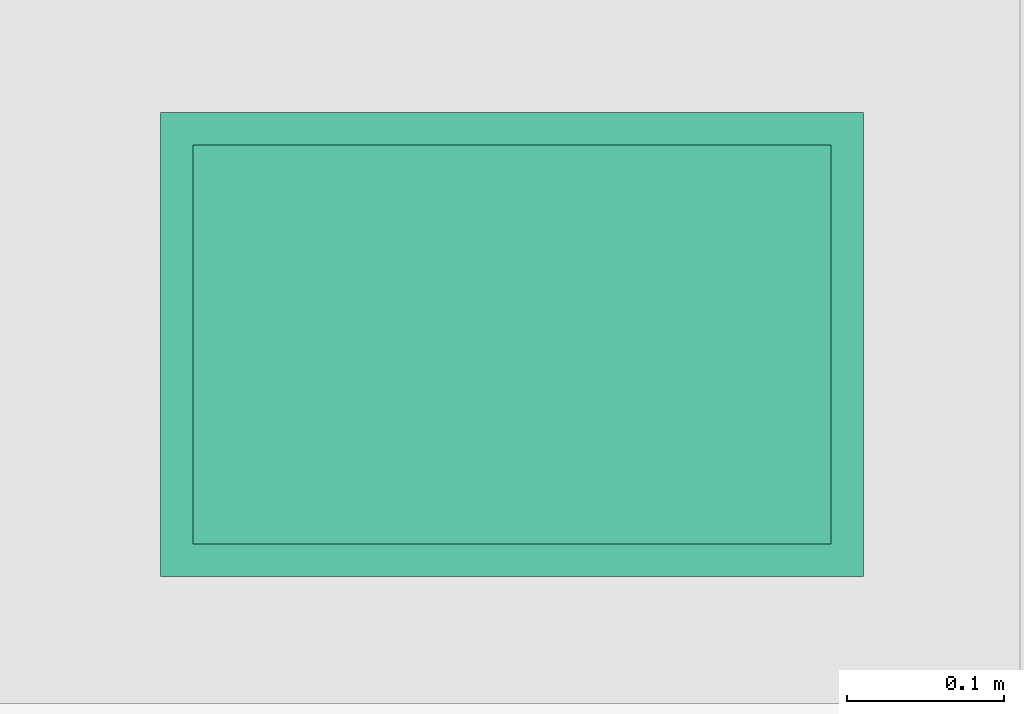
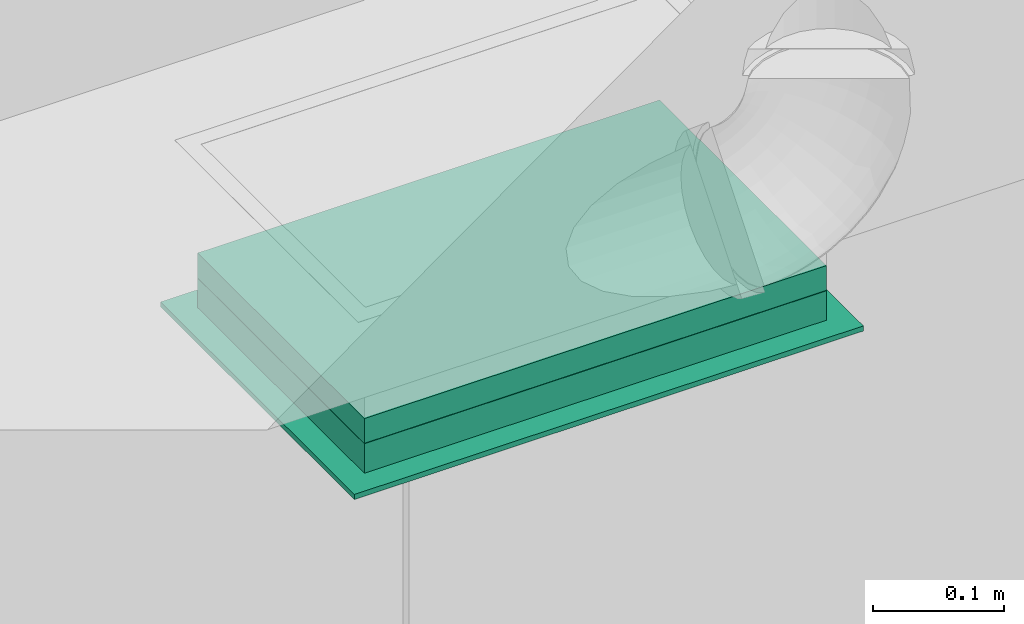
# One storey, part 70 of 108: 1 air terminal, 1 duct segment.
"""IFC4 building model written with IfcOpenShell, lengths in feet."""

from ifc_helpers import new_model, entity, si_unit, converted_unit, derived_unit, direction, frame, frame_2d, origin, place, context, subcontext, project, spatial, rectangle, extrude, source, transform, mapped, type_object, type_shapes, element, save


model = new_model("IFC4")

# Units and contexts
model_context = context("Model", 3, precision=0.0001, world=origin(), true_north=direction((6.12303176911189e-17, 1.0)))
body_context = subcontext(model_context, "Body", "Model", "MODEL_VIEW")
ifc_project = project(units=[converted_unit("LENGTHUNIT", "FOOT", entity("IfcRatioMeasure", 0.3048), si_unit("LENGTHUNIT", "METRE"), dimensions=[1, 0, 0, 0, 0, 0, 0]), converted_unit("AREAUNIT", "SQUARE FOOT", entity("IfcRatioMeasure", 0.09290304), si_unit("AREAUNIT", "SQUARE_METRE"), dimensions=[2, 0, 0, 0, 0, 0, 0]), converted_unit("VOLUMEUNIT", "CUBIC FOOT", entity("IfcRatioMeasure", 0.028316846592), si_unit("VOLUMEUNIT", "CUBIC_METRE"), dimensions=[3, 0, 0, 0, 0, 0, 0]), converted_unit("PLANEANGLEUNIT", "DEGREE", entity("IfcRatioMeasure", 0.0174532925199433), si_unit("PLANEANGLEUNIT", "RADIAN"), dimensions=[0, 0, 0, 0, 0, 0, 0]), si_unit("MASSUNIT", "GRAM", prefix="KILO"), derived_unit("MASSDENSITYUNIT", [(si_unit("MASSUNIT", "GRAM", prefix="KILO"), 1), (si_unit("LENGTHUNIT", "METRE"), -3)]), si_unit("TIMEUNIT", "SECOND"), si_unit("FREQUENCYUNIT", "HERTZ"), si_unit("THERMODYNAMICTEMPERATUREUNIT", "DEGREE_CELSIUS"), derived_unit("THERMALTRANSMITTANCEUNIT", [(si_unit("MASSUNIT", "GRAM", prefix="KILO"), 1), (si_unit("THERMODYNAMICTEMPERATUREUNIT", "KELVIN"), -1), (si_unit("TIMEUNIT", "SECOND"), -3)]), derived_unit("VOLUMETRICFLOWRATEUNIT", [(si_unit("LENGTHUNIT", "METRE"), 3), (si_unit("TIMEUNIT", "SECOND"), -1)]), si_unit("ELECTRICCURRENTUNIT", "AMPERE"), si_unit("ELECTRICVOLTAGEUNIT", "VOLT"), si_unit("POWERUNIT", "WATT"), si_unit("FORCEUNIT", "NEWTON"), si_unit("ILLUMINANCEUNIT", "LUX"), si_unit("LUMINOUSFLUXUNIT", "LUMEN"), si_unit("LUMINOUSINTENSITYUNIT", "CANDELA"), derived_unit("USERDEFINED", [(si_unit("MASSUNIT", "GRAM", prefix="KILO"), -1), (si_unit("LENGTHUNIT", "METRE"), -2), (si_unit("TIMEUNIT", "SECOND"), 3), (si_unit("LUMINOUSFLUXUNIT", "LUMEN"), 1)]), derived_unit("LINEARVELOCITYUNIT", [(si_unit("LENGTHUNIT", "METRE"), 1), (si_unit("TIMEUNIT", "SECOND"), -1)]), si_unit("PRESSUREUNIT", "PASCAL"), derived_unit("USERDEFINED", [(si_unit("LENGTHUNIT", "METRE"), -2), (si_unit("MASSUNIT", "GRAM", prefix="KILO"), 1), (si_unit("TIMEUNIT", "SECOND"), -2)])], contexts=[model_context])

# Site, building, storey
site_placement = place(None, origin())
site = spatial("IfcSite", under=ifc_project, at=site_placement, Name="Default", CompositionType="ELEMENT")
building_placement = place(site_placement, origin())
building = spatial("IfcBuilding", under=site, at=building_placement, CompositionType="ELEMENT")
storey_placement = place(building_placement, frame((0.0, 0.0, 168.0)))
storey = spatial("IfcBuildingStorey", under=building, at=storey_placement, Name="Level 15", CompositionType="ELEMENT", Elevation=168.0)

# Duct segment
duct_segment_type = type_object("IfcDuctSegmentType", Name="Rectangular Duct:Square Throat Elbows / S&D", PredefinedType="NOTDEFINED")
duct_segment_placement = place(storey_placement, frame((-29.3410733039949, 12.7762257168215, 8.67447916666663)))
element("IfcDuctSegment", 1, at=duct_segment_placement, inside=storey, type_object=duct_segment_type, Name="Rectangular Duct:Square Throat Elbows / S&D", ObjectType="Rectangular Duct:Square Throat Elbows / S&D", PredefinedType="NOTDEFINED", context=body_context, shape_type="SweptSolid", body=[
    extrude(rectangle(XDim=1.33333333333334, YDim=0.833333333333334, at=frame_2d((0.0, -8.88178419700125e-16), x_axis=(1.0, 0.0))), frame((0.666666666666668, 0.416666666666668, 0.0)), (0.0, 0.0, 1.0), 0.0755208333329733),
])

# Air terminal
air_terminal_type = type_object("IfcAirTerminalType", Name="16x10", PredefinedType="NOTDEFINED")
cartesian_point_1 = entity("IfcCartesianPoint", [0.734375, -0.015625, 0.484374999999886])
vertex_point_1 = entity("IfcVertexPoint", cartesian_point_1)
cartesian_point_2 = entity("IfcCartesianPoint", [-0.734375, -0.015625, 0.484374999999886])
vertex_point_2 = entity("IfcVertexPoint", cartesian_point_2)
ifc_direction_1 = entity("IfcDirection", [-1.0, 0.0, 0.0])
edge_curve_1 = entity("IfcEdgeCurve", vertex_point_1, vertex_point_2, entity("IfcTrimmedCurve", entity("IfcLine", cartesian_point_1, entity("IfcVector", ifc_direction_1, 1.0)), [cartesian_point_1], [cartesian_point_2], True, "CARTESIAN"), True)
cartesian_point_3 = entity("IfcCartesianPoint", [-0.734375, -0.015625, -0.484374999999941])
vertex_point_3 = entity("IfcVertexPoint", cartesian_point_3)
ifc_direction_2 = entity("IfcDirection", [0.0, 0.0, -1.0])
edge_curve_2 = entity("IfcEdgeCurve", vertex_point_2, vertex_point_3, entity("IfcTrimmedCurve", entity("IfcLine", cartesian_point_2, entity("IfcVector", ifc_direction_2, 1.0)), [cartesian_point_2], [cartesian_point_3], True, "CARTESIAN"), True)
cartesian_point_4 = entity("IfcCartesianPoint", [0.734375, -0.015625, -0.484374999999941])
vertex_point_4 = entity("IfcVertexPoint", cartesian_point_4)
ifc_direction_3 = entity("IfcDirection", [1.0, 0.0, 0.0])
edge_curve_3 = entity("IfcEdgeCurve", vertex_point_3, vertex_point_4, entity("IfcTrimmedCurve", entity("IfcLine", cartesian_point_3, entity("IfcVector", ifc_direction_3, 1.0)), [cartesian_point_3], [cartesian_point_4], True, "CARTESIAN"), True)
ifc_direction_4 = entity("IfcDirection", [0.0, 0.0, 1.0])
edge_curve_4 = entity("IfcEdgeCurve", vertex_point_4, vertex_point_1, entity("IfcTrimmedCurve", entity("IfcLine", cartesian_point_4, entity("IfcVector", ifc_direction_4, 1.0)), [cartesian_point_4], [cartesian_point_1], True, "CARTESIAN"), True)
ifc_direction_5 = entity("IfcDirection", [0.0, -1.0, 0.0])
cartesian_point_5 = entity("IfcCartesianPoint", [0.734375, 0.0, 0.484374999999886])
vertex_point_5 = entity("IfcVertexPoint", cartesian_point_5)
cartesian_point_6 = entity("IfcCartesianPoint", [0.734375, 0.0, -0.484374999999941])
vertex_point_6 = entity("IfcVertexPoint", cartesian_point_6)
edge_curve_5 = entity("IfcEdgeCurve", vertex_point_5, vertex_point_6, entity("IfcTrimmedCurve", entity("IfcLine", cartesian_point_5, entity("IfcVector", ifc_direction_2, 1.0)), [cartesian_point_5], [cartesian_point_6], True, "CARTESIAN"), True)
cartesian_point_7 = entity("IfcCartesianPoint", [-0.734375, 0.0, -0.484374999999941])
vertex_point_7 = entity("IfcVertexPoint", cartesian_point_7)
edge_curve_6 = entity("IfcEdgeCurve", vertex_point_6, vertex_point_7, entity("IfcTrimmedCurve", entity("IfcLine", cartesian_point_6, entity("IfcVector", ifc_direction_1, 1.0)), [cartesian_point_6], [cartesian_point_7], True, "CARTESIAN"), True)
cartesian_point_8 = entity("IfcCartesianPoint", [-0.734375, 0.0, 0.484374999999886])
vertex_point_8 = entity("IfcVertexPoint", cartesian_point_8)
edge_curve_7 = entity("IfcEdgeCurve", vertex_point_7, vertex_point_8, entity("IfcTrimmedCurve", entity("IfcLine", cartesian_point_7, entity("IfcVector", ifc_direction_4, 1.0)), [cartesian_point_7], [cartesian_point_8], True, "CARTESIAN"), True)
edge_curve_8 = entity("IfcEdgeCurve", vertex_point_8, vertex_point_5, entity("IfcTrimmedCurve", entity("IfcLine", cartesian_point_8, entity("IfcVector", ifc_direction_3, 1.0)), [cartesian_point_8], [cartesian_point_5], True, "CARTESIAN"), True)
cartesian_point_9 = entity("IfcCartesianPoint", [-0.666666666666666, 0.0, 0.416666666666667])
vertex_point_9 = entity("IfcVertexPoint", cartesian_point_9)
cartesian_point_10 = entity("IfcCartesianPoint", [-0.666666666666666, 0.0, -0.416666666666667])
vertex_point_10 = entity("IfcVertexPoint", cartesian_point_10)
edge_curve_9 = entity("IfcEdgeCurve", vertex_point_9, vertex_point_10, entity("IfcTrimmedCurve", entity("IfcLine", cartesian_point_9, entity("IfcVector", ifc_direction_2, 1.0)), [cartesian_point_9], [cartesian_point_10], True, "CARTESIAN"), True)
cartesian_point_11 = entity("IfcCartesianPoint", [0.666666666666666, 0.0, -0.416666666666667])
vertex_point_11 = entity("IfcVertexPoint", cartesian_point_11)
edge_curve_10 = entity("IfcEdgeCurve", vertex_point_10, vertex_point_11, entity("IfcTrimmedCurve", entity("IfcLine", cartesian_point_10, entity("IfcVector", ifc_direction_3, 1.0)), [cartesian_point_10], [cartesian_point_11], True, "CARTESIAN"), True)
cartesian_point_12 = entity("IfcCartesianPoint", [0.666666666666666, 0.0, 0.416666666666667])
vertex_point_12 = entity("IfcVertexPoint", cartesian_point_12)
edge_curve_11 = entity("IfcEdgeCurve", vertex_point_11, vertex_point_12, entity("IfcTrimmedCurve", entity("IfcLine", cartesian_point_11, entity("IfcVector", ifc_direction_4, 1.0)), [cartesian_point_11], [cartesian_point_12], True, "CARTESIAN"), True)
edge_curve_12 = entity("IfcEdgeCurve", vertex_point_12, vertex_point_9, entity("IfcTrimmedCurve", entity("IfcLine", cartesian_point_12, entity("IfcVector", ifc_direction_1, 1.0)), [cartesian_point_12], [cartesian_point_9], True, "CARTESIAN"), True)
ifc_direction_6 = entity("IfcDirection", [0.0, 1.0, 0.0])
edge_curve_13 = entity("IfcEdgeCurve", vertex_point_1, vertex_point_5, entity("IfcTrimmedCurve", entity("IfcLine", cartesian_point_1, entity("IfcVector", ifc_direction_6, 1.0)), [cartesian_point_1], [cartesian_point_5], True, "CARTESIAN"), True)
edge_curve_14 = entity("IfcEdgeCurve", vertex_point_8, vertex_point_2, entity("IfcTrimmedCurve", entity("IfcLine", cartesian_point_2, entity("IfcVector", ifc_direction_5, 1.0)), [cartesian_point_8], [cartesian_point_2], True, "CARTESIAN"), True)
edge_curve_15 = entity("IfcEdgeCurve", vertex_point_7, vertex_point_3, entity("IfcTrimmedCurve", entity("IfcLine", cartesian_point_3, entity("IfcVector", ifc_direction_5, 1.0)), [cartesian_point_7], [cartesian_point_3], True, "CARTESIAN"), True)
edge_curve_16 = entity("IfcEdgeCurve", vertex_point_6, vertex_point_4, entity("IfcTrimmedCurve", entity("IfcLine", cartesian_point_4, entity("IfcVector", ifc_direction_5, 1.0)), [cartesian_point_6], [cartesian_point_4], True, "CARTESIAN"), True)
cartesian_point_13 = entity("IfcCartesianPoint", [-0.666666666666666, 0.08984375, 0.416666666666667])
vertex_point_13 = entity("IfcVertexPoint", cartesian_point_13)
cartesian_point_14 = entity("IfcCartesianPoint", [0.666666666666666, 0.08984375, 0.416666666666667])
vertex_point_14 = entity("IfcVertexPoint", cartesian_point_14)
edge_curve_17 = entity("IfcEdgeCurve", vertex_point_13, vertex_point_14, entity("IfcTrimmedCurve", entity("IfcLine", cartesian_point_13, entity("IfcVector", ifc_direction_3, 1.0)), [cartesian_point_13], [cartesian_point_14], True, "CARTESIAN"), True)
cartesian_point_15 = entity("IfcCartesianPoint", [0.666666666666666, 0.08984375, -0.416666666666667])
vertex_point_15 = entity("IfcVertexPoint", cartesian_point_15)
edge_curve_18 = entity("IfcEdgeCurve", vertex_point_14, vertex_point_15, entity("IfcTrimmedCurve", entity("IfcLine", cartesian_point_14, entity("IfcVector", ifc_direction_2, 1.0)), [cartesian_point_14], [cartesian_point_15], True, "CARTESIAN"), True)
cartesian_point_16 = entity("IfcCartesianPoint", [-0.666666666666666, 0.08984375, -0.416666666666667])
vertex_point_16 = entity("IfcVertexPoint", cartesian_point_16)
edge_curve_19 = entity("IfcEdgeCurve", vertex_point_15, vertex_point_16, entity("IfcTrimmedCurve", entity("IfcLine", cartesian_point_15, entity("IfcVector", ifc_direction_1, 1.0)), [cartesian_point_15], [cartesian_point_16], True, "CARTESIAN"), True)
edge_curve_20 = entity("IfcEdgeCurve", vertex_point_16, vertex_point_13, entity("IfcTrimmedCurve", entity("IfcLine", cartesian_point_16, entity("IfcVector", ifc_direction_4, 1.0)), [cartesian_point_16], [cartesian_point_13], True, "CARTESIAN"), True)
cartesian_point_17 = entity("IfcCartesianPoint", [-0.645833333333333, 0.08984375, 0.395833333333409])
vertex_point_17 = entity("IfcVertexPoint", cartesian_point_17)
cartesian_point_18 = entity("IfcCartesianPoint", [-0.645833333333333, 0.08984375, -0.39583333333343])
vertex_point_18 = entity("IfcVertexPoint", cartesian_point_18)
edge_curve_21 = entity("IfcEdgeCurve", vertex_point_17, vertex_point_18, entity("IfcTrimmedCurve", entity("IfcLine", cartesian_point_17, entity("IfcVector", ifc_direction_2, 1.0)), [cartesian_point_17], [cartesian_point_18], True, "CARTESIAN"), True)
cartesian_point_19 = entity("IfcCartesianPoint", [0.645833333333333, 0.08984375, -0.39583333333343])
vertex_point_19 = entity("IfcVertexPoint", cartesian_point_19)
edge_curve_22 = entity("IfcEdgeCurve", vertex_point_18, vertex_point_19, entity("IfcTrimmedCurve", entity("IfcLine", cartesian_point_18, entity("IfcVector", ifc_direction_3, 1.0)), [cartesian_point_18], [cartesian_point_19], True, "CARTESIAN"), True)
cartesian_point_20 = entity("IfcCartesianPoint", [0.645833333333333, 0.08984375, 0.395833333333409])
vertex_point_20 = entity("IfcVertexPoint", cartesian_point_20)
edge_curve_23 = entity("IfcEdgeCurve", vertex_point_19, vertex_point_20, entity("IfcTrimmedCurve", entity("IfcLine", cartesian_point_19, entity("IfcVector", ifc_direction_4, 1.0)), [cartesian_point_19], [cartesian_point_20], True, "CARTESIAN"), True)
edge_curve_24 = entity("IfcEdgeCurve", vertex_point_20, vertex_point_17, entity("IfcTrimmedCurve", entity("IfcLine", cartesian_point_20, entity("IfcVector", ifc_direction_1, 1.0)), [cartesian_point_20], [cartesian_point_17], True, "CARTESIAN"), True)
edge_curve_25 = entity("IfcEdgeCurve", vertex_point_16, vertex_point_10, entity("IfcTrimmedCurve", entity("IfcLine", cartesian_point_10, entity("IfcVector", ifc_direction_5, 1.0)), [cartesian_point_16], [cartesian_point_10], True, "CARTESIAN"), True)
edge_curve_26 = entity("IfcEdgeCurve", vertex_point_9, vertex_point_13, entity("IfcTrimmedCurve", entity("IfcLine", cartesian_point_9, entity("IfcVector", ifc_direction_6, 1.0)), [cartesian_point_9], [cartesian_point_13], True, "CARTESIAN"), True)
edge_curve_27 = entity("IfcEdgeCurve", vertex_point_15, vertex_point_11, entity("IfcTrimmedCurve", entity("IfcLine", cartesian_point_11, entity("IfcVector", ifc_direction_5, 1.0)), [cartesian_point_15], [cartesian_point_11], True, "CARTESIAN"), True)
edge_curve_28 = entity("IfcEdgeCurve", vertex_point_14, vertex_point_12, entity("IfcTrimmedCurve", entity("IfcLine", cartesian_point_12, entity("IfcVector", ifc_direction_5, 1.0)), [cartesian_point_14], [cartesian_point_12], True, "CARTESIAN"), True)
cartesian_point_21 = entity("IfcCartesianPoint", [-0.645833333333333, 0.0911458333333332, 0.395833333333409])
vertex_point_21 = entity("IfcVertexPoint", cartesian_point_21)
cartesian_point_22 = entity("IfcCartesianPoint", [0.645833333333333, 0.0911458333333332, 0.395833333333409])
vertex_point_22 = entity("IfcVertexPoint", cartesian_point_22)
edge_curve_29 = entity("IfcEdgeCurve", vertex_point_21, vertex_point_22, entity("IfcTrimmedCurve", entity("IfcLine", cartesian_point_21, entity("IfcVector", ifc_direction_3, 1.0)), [cartesian_point_21], [cartesian_point_22], True, "CARTESIAN"), True)
cartesian_point_23 = entity("IfcCartesianPoint", [0.645833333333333, 0.0911458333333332, -0.39583333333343])
vertex_point_23 = entity("IfcVertexPoint", cartesian_point_23)
edge_curve_30 = entity("IfcEdgeCurve", vertex_point_22, vertex_point_23, entity("IfcTrimmedCurve", entity("IfcLine", cartesian_point_22, entity("IfcVector", ifc_direction_2, 1.0)), [cartesian_point_22], [cartesian_point_23], True, "CARTESIAN"), True)
cartesian_point_24 = entity("IfcCartesianPoint", [-0.645833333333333, 0.0911458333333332, -0.39583333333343])
vertex_point_24 = entity("IfcVertexPoint", cartesian_point_24)
edge_curve_31 = entity("IfcEdgeCurve", vertex_point_23, vertex_point_24, entity("IfcTrimmedCurve", entity("IfcLine", cartesian_point_23, entity("IfcVector", ifc_direction_1, 1.0)), [cartesian_point_23], [cartesian_point_24], True, "CARTESIAN"), True)
edge_curve_32 = entity("IfcEdgeCurve", vertex_point_24, vertex_point_21, entity("IfcTrimmedCurve", entity("IfcLine", cartesian_point_24, entity("IfcVector", ifc_direction_4, 1.0)), [cartesian_point_24], [cartesian_point_21], True, "CARTESIAN"), True)
edge_curve_33 = entity("IfcEdgeCurve", vertex_point_24, vertex_point_18, entity("IfcTrimmedCurve", entity("IfcLine", cartesian_point_18, entity("IfcVector", ifc_direction_5, 1.0)), [cartesian_point_24], [cartesian_point_18], True, "CARTESIAN"), True)
edge_curve_34 = entity("IfcEdgeCurve", vertex_point_17, vertex_point_21, entity("IfcTrimmedCurve", entity("IfcLine", cartesian_point_17, entity("IfcVector", ifc_direction_6, 1.0)), [cartesian_point_17], [cartesian_point_21], True, "CARTESIAN"), True)
edge_curve_35 = entity("IfcEdgeCurve", vertex_point_23, vertex_point_19, entity("IfcTrimmedCurve", entity("IfcLine", cartesian_point_19, entity("IfcVector", ifc_direction_5, 1.0)), [cartesian_point_23], [cartesian_point_19], True, "CARTESIAN"), True)
edge_curve_36 = entity("IfcEdgeCurve", vertex_point_22, vertex_point_20, entity("IfcTrimmedCurve", entity("IfcLine", cartesian_point_20, entity("IfcVector", ifc_direction_5, 1.0)), [cartesian_point_22], [cartesian_point_20], True, "CARTESIAN"), True)
shared_shape = source(origin(), body_context, "Body", "AdvancedBrep", [
    entity("IfcAdvancedBrep", entity("IfcClosedShell", [entity("IfcAdvancedFace", [entity("IfcFaceOuterBound", entity("IfcEdgeLoop", [entity("IfcOrientedEdge", None, None, edge_curve_1, True), entity("IfcOrientedEdge", None, None, edge_curve_2, True), entity("IfcOrientedEdge", None, None, edge_curve_3, True), entity("IfcOrientedEdge", None, None, edge_curve_4, True)]), True)], entity("IfcPlane", entity("IfcAxis2Placement3D", cartesian_point_2, ifc_direction_5, ifc_direction_1)), True), entity("IfcAdvancedFace", [entity("IfcFaceOuterBound", entity("IfcEdgeLoop", [entity("IfcOrientedEdge", None, None, edge_curve_5, True), entity("IfcOrientedEdge", None, None, edge_curve_6, True), entity("IfcOrientedEdge", None, None, edge_curve_7, True), entity("IfcOrientedEdge", None, None, edge_curve_8, True)]), True), entity("IfcFaceBound", entity("IfcEdgeLoop", [entity("IfcOrientedEdge", None, None, edge_curve_9, True), entity("IfcOrientedEdge", None, None, edge_curve_10, True), entity("IfcOrientedEdge", None, None, edge_curve_11, True), entity("IfcOrientedEdge", None, None, edge_curve_12, True)]), False)], entity("IfcPlane", entity("IfcAxis2Placement3D", cartesian_point_8, ifc_direction_6, ifc_direction_3)), True), entity("IfcAdvancedFace", [entity("IfcFaceOuterBound", entity("IfcEdgeLoop", [entity("IfcOrientedEdge", None, None, edge_curve_1, False), entity("IfcOrientedEdge", None, None, edge_curve_13, True), entity("IfcOrientedEdge", None, None, edge_curve_8, False), entity("IfcOrientedEdge", None, None, edge_curve_14, True)]), True)], entity("IfcPlane", entity("IfcAxis2Placement3D", cartesian_point_1, ifc_direction_4, ifc_direction_6)), True), entity("IfcAdvancedFace", [entity("IfcFaceOuterBound", entity("IfcEdgeLoop", [entity("IfcOrientedEdge", None, None, edge_curve_2, False), entity("IfcOrientedEdge", None, None, edge_curve_14, False), entity("IfcOrientedEdge", None, None, edge_curve_7, False), entity("IfcOrientedEdge", None, None, edge_curve_15, True)]), True)], entity("IfcPlane", entity("IfcAxis2Placement3D", cartesian_point_2, ifc_direction_1, ifc_direction_6)), True), entity("IfcAdvancedFace", [entity("IfcFaceOuterBound", entity("IfcEdgeLoop", [entity("IfcOrientedEdge", None, None, edge_curve_3, False), entity("IfcOrientedEdge", None, None, edge_curve_15, False), entity("IfcOrientedEdge", None, None, edge_curve_6, False), entity("IfcOrientedEdge", None, None, edge_curve_16, True)]), True)], entity("IfcPlane", entity("IfcAxis2Placement3D", cartesian_point_3, ifc_direction_2, ifc_direction_6)), True), entity("IfcAdvancedFace", [entity("IfcFaceOuterBound", entity("IfcEdgeLoop", [entity("IfcOrientedEdge", None, None, edge_curve_4, False), entity("IfcOrientedEdge", None, None, edge_curve_16, False), entity("IfcOrientedEdge", None, None, edge_curve_5, False), entity("IfcOrientedEdge", None, None, edge_curve_13, False)]), True)], entity("IfcPlane", entity("IfcAxis2Placement3D", cartesian_point_4, ifc_direction_3, ifc_direction_6)), True), entity("IfcAdvancedFace", [entity("IfcFaceOuterBound", entity("IfcEdgeLoop", [entity("IfcOrientedEdge", None, None, edge_curve_17, True), entity("IfcOrientedEdge", None, None, edge_curve_18, True), entity("IfcOrientedEdge", None, None, edge_curve_19, True), entity("IfcOrientedEdge", None, None, edge_curve_20, True)]), True), entity("IfcFaceBound", entity("IfcEdgeLoop", [entity("IfcOrientedEdge", None, None, edge_curve_21, True), entity("IfcOrientedEdge", None, None, edge_curve_22, True), entity("IfcOrientedEdge", None, None, edge_curve_23, True), entity("IfcOrientedEdge", None, None, edge_curve_24, True)]), False)], entity("IfcPlane", entity("IfcAxis2Placement3D", cartesian_point_13, ifc_direction_6, ifc_direction_4)), True), entity("IfcAdvancedFace", [entity("IfcFaceOuterBound", entity("IfcEdgeLoop", [entity("IfcOrientedEdge", None, None, edge_curve_20, False), entity("IfcOrientedEdge", None, None, edge_curve_25, True), entity("IfcOrientedEdge", None, None, edge_curve_9, False), entity("IfcOrientedEdge", None, None, edge_curve_26, True)]), True)], entity("IfcPlane", entity("IfcAxis2Placement3D", cartesian_point_9, ifc_direction_1, ifc_direction_6)), True), entity("IfcAdvancedFace", [entity("IfcFaceOuterBound", entity("IfcEdgeLoop", [entity("IfcOrientedEdge", None, None, edge_curve_19, False), entity("IfcOrientedEdge", None, None, edge_curve_27, True), entity("IfcOrientedEdge", None, None, edge_curve_10, False), entity("IfcOrientedEdge", None, None, edge_curve_25, False)]), True)], entity("IfcPlane", entity("IfcAxis2Placement3D", cartesian_point_10, ifc_direction_2, ifc_direction_6)), True), entity("IfcAdvancedFace", [entity("IfcFaceOuterBound", entity("IfcEdgeLoop", [entity("IfcOrientedEdge", None, None, edge_curve_18, False), entity("IfcOrientedEdge", None, None, edge_curve_28, True), entity("IfcOrientedEdge", None, None, edge_curve_11, False), entity("IfcOrientedEdge", None, None, edge_curve_27, False)]), True)], entity("IfcPlane", entity("IfcAxis2Placement3D", cartesian_point_11, ifc_direction_3, ifc_direction_6)), True), entity("IfcAdvancedFace", [entity("IfcFaceOuterBound", entity("IfcEdgeLoop", [entity("IfcOrientedEdge", None, None, edge_curve_17, False), entity("IfcOrientedEdge", None, None, edge_curve_26, False), entity("IfcOrientedEdge", None, None, edge_curve_12, False), entity("IfcOrientedEdge", None, None, edge_curve_28, False)]), True)], entity("IfcPlane", entity("IfcAxis2Placement3D", cartesian_point_12, ifc_direction_4, ifc_direction_6)), True), entity("IfcAdvancedFace", [entity("IfcFaceOuterBound", entity("IfcEdgeLoop", [entity("IfcOrientedEdge", None, None, edge_curve_29, True), entity("IfcOrientedEdge", None, None, edge_curve_30, True), entity("IfcOrientedEdge", None, None, edge_curve_31, True), entity("IfcOrientedEdge", None, None, edge_curve_32, True)]), True)], entity("IfcPlane", entity("IfcAxis2Placement3D", cartesian_point_21, ifc_direction_6, ifc_direction_4)), True), entity("IfcAdvancedFace", [entity("IfcFaceOuterBound", entity("IfcEdgeLoop", [entity("IfcOrientedEdge", None, None, edge_curve_32, False), entity("IfcOrientedEdge", None, None, edge_curve_33, True), entity("IfcOrientedEdge", None, None, edge_curve_21, False), entity("IfcOrientedEdge", None, None, edge_curve_34, True)]), True)], entity("IfcPlane", entity("IfcAxis2Placement3D", cartesian_point_17, ifc_direction_1, ifc_direction_6)), True), entity("IfcAdvancedFace", [entity("IfcFaceOuterBound", entity("IfcEdgeLoop", [entity("IfcOrientedEdge", None, None, edge_curve_31, False), entity("IfcOrientedEdge", None, None, edge_curve_35, True), entity("IfcOrientedEdge", None, None, edge_curve_22, False), entity("IfcOrientedEdge", None, None, edge_curve_33, False)]), True)], entity("IfcPlane", entity("IfcAxis2Placement3D", cartesian_point_18, ifc_direction_2, ifc_direction_6)), True), entity("IfcAdvancedFace", [entity("IfcFaceOuterBound", entity("IfcEdgeLoop", [entity("IfcOrientedEdge", None, None, edge_curve_30, False), entity("IfcOrientedEdge", None, None, edge_curve_36, True), entity("IfcOrientedEdge", None, None, edge_curve_23, False), entity("IfcOrientedEdge", None, None, edge_curve_35, False)]), True)], entity("IfcPlane", entity("IfcAxis2Placement3D", cartesian_point_19, ifc_direction_3, ifc_direction_6)), True), entity("IfcAdvancedFace", [entity("IfcFaceOuterBound", entity("IfcEdgeLoop", [entity("IfcOrientedEdge", None, None, edge_curve_29, False), entity("IfcOrientedEdge", None, None, edge_curve_34, False), entity("IfcOrientedEdge", None, None, edge_curve_24, False), entity("IfcOrientedEdge", None, None, edge_curve_36, False)]), True)], entity("IfcPlane", entity("IfcAxis2Placement3D", cartesian_point_20, ifc_direction_4, ifc_direction_6)), True)])),
])
type_shapes(air_terminal_type, [shared_shape])
air_terminal_placement = place(storey_placement, frame((-28.6744066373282, 13.1928923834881, 8.58333333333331), z_axis=(0.0, -1.0, 0.0), x_axis=(1.0, 0.0, 0.0)))
element("IfcAirTerminal", 2, at=air_terminal_placement, inside=storey, type_object=air_terminal_type, Name="Supply Diffuser - Sidewall:16x10", ObjectType="Supply Diffuser - Sidewall:16x10", PredefinedType="NOTDEFINED", context=body_context, shape_type="MappedRepresentation", body=[
    mapped(shared_shape, transform((0.0, 0.0, 0.0), scale=1.0)),
])

save(model, "model.ifc")
